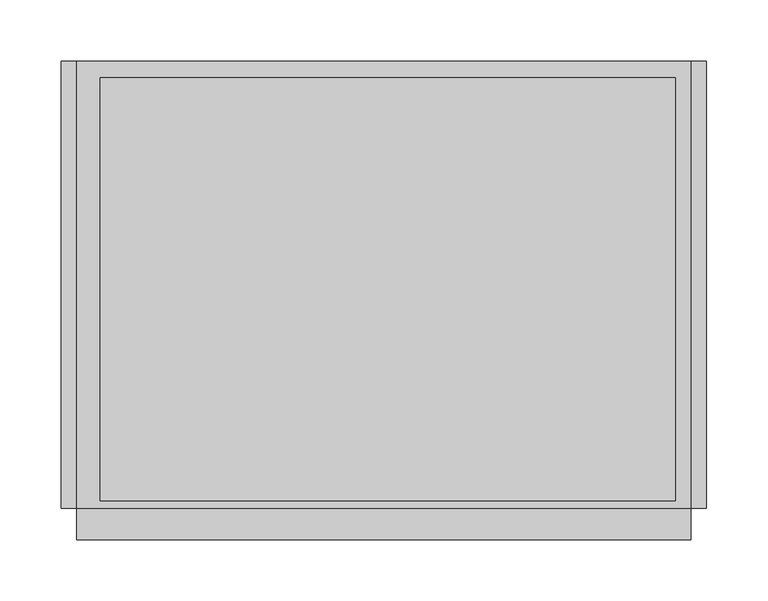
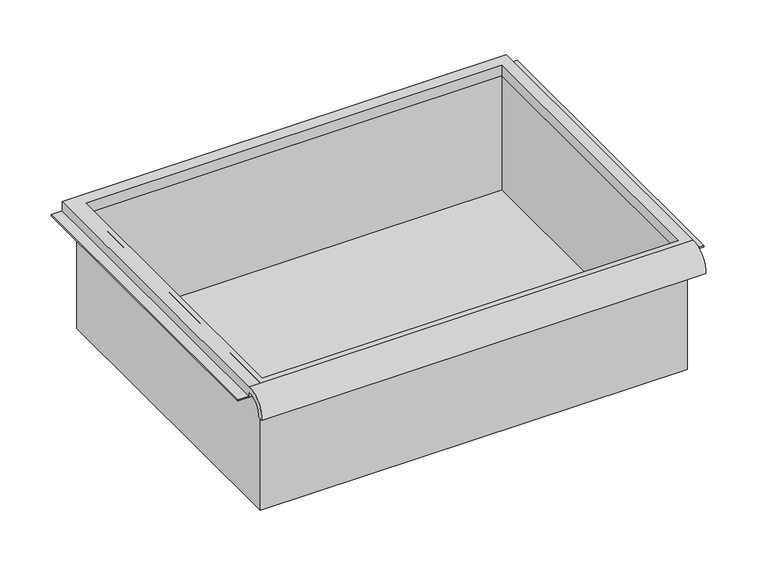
"""IFC4 building model written with IfcOpenShell, lengths in millimetres: furniture geometry."""

import ifcopenshell
import ifcopenshell.guid

model = None  # the IFC model being written
_history = None  # IfcOwnerHistory: only IFC2X3 demands one
_inside = {}  # id of a spatial element -> (the spatial element, [elements in it])
_under = {}  # id of a project, library or spatial element -> (it, [spatial elements below it])
_declared = {}  # id of a project -> (the project, [libraries it declares])
_typed = {}  # id of a type object -> (the type object, [elements of that type])
_made_of = {}  # id of a material, layer set ... -> (it, [elements and type objects made of it])


def new_model(schema):
    """Start an empty IFC model of exactly this schema.

    Asked for "IFC4X3", IfcOpenShell would pick the latest addendum, in which some entities
    have other attributes; the version numbers below select the first issue.
    IFC2X3 requires an IfcOwnerHistory on every rooted entity: one is made here for all.
    """
    global model, _history
    if schema == "IFC4X3":
        model = ifcopenshell.file(schema_version=(4, 3, 0, 0))
    else:
        model = ifcopenshell.file(schema=schema)
    _inside.clear()
    _under.clear()
    _declared.clear()
    _typed.clear()
    _made_of.clear()
    _history = None
    if model.schema == "IFC2X3":
        org = make("IfcOrganization", Name="unknown")
        user = make(
            "IfcPersonAndOrganization",
            ThePerson=make("IfcPerson", FamilyName="unknown"),
            TheOrganization=org,
        )
        app = make(
            "IfcApplication",
            ApplicationDeveloper=org,
            Version="unknown",
            ApplicationFullName="unknown",
            ApplicationIdentifier="unknown",
        )
        _history = make(
            "IfcOwnerHistory",
            OwningUser=user,
            OwningApplication=app,
            ChangeAction="ADDED",
            CreationDate=0,
        )
    return model


def make(cls, **values):
    """One entity of the class cls with the attributes given. An attribute that is None is left unset."""
    return model.create_entity(
        cls, **{name: value for name, value in values.items() if value is not None}
    )


def rooted(cls, **values):
    """An entity with a GlobalId (a new one), such as an element, a storey or a relation."""
    return make(cls, GlobalId=ifcopenshell.guid.new(), OwnerHistory=_history, **values)


def si_unit(unit_type, name, prefix=None):
    """IfcSIUnit, for example si_unit("LENGTHUNIT", "METRE", prefix="MILLI")."""
    return make("IfcSIUnit", UnitType=unit_type, Prefix=prefix, Name=name)


def assignment(units):
    """IfcUnitAssignment: the units of a project."""
    return None if units is None else make("IfcUnitAssignment", Units=units)


def point(xyz):
    """IfcCartesianPoint."""
    return None if xyz is None else make("IfcCartesianPoint", Coordinates=xyz)


def direction(xyz):
    """IfcDirection."""
    return None if xyz is None else make("IfcDirection", DirectionRatios=xyz)


def frame(location, z_axis=None, x_axis=None):
    """IfcAxis2Placement3D, a coordinate frame: its origin and axes. An axis left out is left unset."""
    return make(
        "IfcAxis2Placement3D",
        Location=point(location),
        Axis=direction(z_axis),
        RefDirection=direction(x_axis),
    )


def origin():
    """The frame at (0, 0, 0) with its axes left unset."""
    return frame((0.0, 0.0, 0.0))


def place(relative_to, where):
    """IfcLocalPlacement: puts the frame where relative to a parent placement (None: the world)."""
    return make(
        "IfcLocalPlacement", PlacementRelTo=relative_to, RelativePlacement=where
    )


def context(
    kind, dimensions, precision=None, world=None, true_north=None, identifier=None
):
    """IfcGeometricRepresentationContext, for example the 3D "Model" context."""
    return make(
        "IfcGeometricRepresentationContext",
        ContextIdentifier=identifier,
        ContextType=kind,
        CoordinateSpaceDimension=dimensions,
        Precision=precision,
        WorldCoordinateSystem=world,
        TrueNorth=true_north,
    )


def project(units=None, contexts=None):
    """IfcProject with its units and contexts."""
    return rooted(
        "IfcProject",
        Name="project",
        RepresentationContexts=contexts,
        UnitsInContext=assignment(units),
    )


def spatial(cls, under=None, at=None, **own):
    """A site, building, storey or space (cls), placed at a placement, below another one or the project."""
    s = rooted(cls, ObjectPlacement=at, **own)
    if under is not None:
        _under.setdefault(under.id(), (under, []))[1].append(s)
    return s


def polyline(points):
    """IfcPolyline through the points."""
    return make("IfcPolyline", Points=[point(p) for p in points])


def circle_curve(where, radius):
    """IfcCircle in the frame where."""
    return make("IfcCircle", Position=where, Radius=radius)


def faces_of(points, faces, orient=None, outer=None):
    """IfcFace entities. A face is a list of loops; a loop is a list of indices into points, from 0.

    orient and outer hold one flag for each loop. By default every Orientation is true, the
    first loop of a face is its IfcFaceOuterBound and the others are IfcFaceBound.
    """
    made = []
    for i, loops in enumerate(faces):
        bounds = []
        for j, loop in enumerate(loops):
            is_outer = j == 0 if outer is None else outer[i][j]
            bounds.append(
                make(
                    "IfcFaceOuterBound" if is_outer else "IfcFaceBound",
                    Bound=make("IfcPolyLoop", Polygon=[points[k] for k in loop]),
                    Orientation=True if orient is None else orient[i][j],
                )
            )
        made.append(make("IfcFace", Bounds=bounds))
    return made


def faceted_brep(points, faces, orient=None, outer=None, voids=None):
    """IfcFacetedBrep: a solid bounded by flat faces; with voids (closed shells), ...WithVoids."""
    shared = [point(p) for p in points]
    hull = make("IfcClosedShell", CfsFaces=faces_of(shared, faces, orient, outer))
    if voids is None:
        return make("IfcFacetedBrep", Outer=hull)
    return make(
        "IfcFacetedBrepWithVoids",
        Outer=hull,
        Voids=[
            make(cls, CfsFaces=faces_of(shared, fs, o, b)) for cls, fs, o, b in voids
        ],
    )


def shape(context_of_items, identifier, shape_type, items):
    """IfcShapeRepresentation: the items that make up one representation, for example the "Body"."""
    return make(
        "IfcShapeRepresentation",
        ContextOfItems=context_of_items,
        RepresentationIdentifier=identifier,
        RepresentationType=shape_type,
        Items=items,
    )


def source(mapping_origin, context_of_items, identifier, shape_type, items):
    """IfcRepresentationMap: a shape defined once, which mapped items show again and again."""
    return make(
        "IfcRepresentationMap",
        MappingOrigin=mapping_origin,
        MappedRepresentation=shape(context_of_items, identifier, shape_type, items),
    )


def transform(
    local_origin,
    x_axis=None,
    y_axis=None,
    z_axis=None,
    scale=None,
    scale2=None,
    scale3=None,
    uniform=True,
):
    """IfcCartesianTransformationOperator3D, or its non-uniform kind. x_axis, y_axis, z_axis: its Axis1, 2, 3."""
    if uniform:
        return make(
            "IfcCartesianTransformationOperator3D",
            Axis1=direction(x_axis),
            Axis2=direction(y_axis),
            LocalOrigin=point(local_origin),
            Scale=scale,
            Axis3=direction(z_axis),
        )
    return make(
        "IfcCartesianTransformationOperator3DnonUniform",
        Axis1=direction(x_axis),
        Axis2=direction(y_axis),
        LocalOrigin=point(local_origin),
        Scale=scale,
        Axis3=direction(z_axis),
        Scale2=scale2,
        Scale3=scale3,
    )


def mapped(mapping_source, mapping_target):
    """IfcMappedItem: shows the shape of a source again, moved by a transform."""
    return make(
        "IfcMappedItem", MappingSource=mapping_source, MappingTarget=mapping_target
    )


def made_of(thing, what):
    """Note that an element or type object is made of a material, layer set ...; save() writes the relation."""
    if what is not None:
        _made_of.setdefault(what.id(), (what, []))[1].append(thing)
    return thing


def element(
    cls,
    number,
    at=None,
    inside=None,
    cuts=None,
    type_object=None,
    material=None,
    context=None,
    identifier="Body",
    shape_type=None,
    held_by="IfcProductDefinitionShape",
    body=None,
    shapes=None,
    **own,
):
    """One element of the class cls, such as IfcWall. Its Tag is "e" and its number.

    at: its placement. inside: the storey or other place that contains it. cuts: it is an
    opening in that element (IfcRelVoidsElement). A single representation is given by context,
    identifier, shape_type and body (its items); several are given by shapes. held_by: the class
    of the entity that holds the representations. save() writes the other relations.
    """
    e = rooted(cls, Tag="e%d" % number, ObjectPlacement=at, **own)
    if body is not None:
        shapes = [shape(context, identifier, shape_type, body)]
    if shapes is not None:
        e.Representation = make(held_by, Representations=shapes)
    if inside is not None:
        _inside.setdefault(inside.id(), (inside, []))[1].append(e)
    if cuts is not None:
        rooted(
            "IfcRelVoidsElement", RelatingBuildingElement=cuts, RelatedOpeningElement=e
        )
    if type_object is not None:
        _typed.setdefault(type_object.id(), (type_object, []))[1].append(e)
    return made_of(e, material)


def aggregate(whole, parts):
    """IfcRelAggregates: a whole, such as a stair, and the parts it consists of."""
    return rooted("IfcRelAggregates", RelatingObject=whole, RelatedObjects=parts)


def save(model, path):
    """Write the relations noted so far, then the file.

    IfcRelAggregates (storeys below a building ...), IfcRelContainedInSpatialStructure (elements
    in a storey), IfcRelDefinesByType, IfcRelAssociatesMaterial and IfcRelDeclares: one each for
    every whole, place, type object, material and project.
    """
    for whole, parts in _under.values():
        aggregate(whole, parts)
    for where, things in _inside.values():
        rooted(
            "IfcRelContainedInSpatialStructure",
            RelatedElements=things,
            RelatingStructure=where,
        )
    for kind, things in _typed.values():
        rooted("IfcRelDefinesByType", RelatedObjects=things, RelatingType=kind)
    for what, things in _made_of.values():
        rooted("IfcRelAssociatesMaterial", RelatedObjects=things, RelatingMaterial=what)
    for by, libraries in _declared.values():
        rooted("IfcRelDeclares", RelatingContext=by, RelatedDefinitions=libraries)
    model.write(path)


def plane_surface(at):
    """IfcPlane: the flat surface through the origin of the frame at, square to its z axis."""
    return make("IfcPlane", Position=at)


def cylinder_surface(at, radius):
    """IfcCylindricalSurface: all points at the distance radius from the z axis of the frame at."""
    return make("IfcCylindricalSurface", Position=at, Radius=radius)


def revolved_surface(curve, axis_point, axis_direction):
    """IfcSurfaceOfRevolution: the curve turned about the line through axis_point along axis_direction."""
    return make(
        "IfcSurfaceOfRevolution",
        SweptCurve=make("IfcArbitraryOpenProfileDef", ProfileType="CURVE", Curve=curve),
        AxisPosition=make("IfcAxis1Placement", Location=point(axis_point), Axis=direction(axis_direction)),
    )


def advanced_brep(points, edges, surfaces, faces):
    """IfcAdvancedBrep: a solid bounded by faces that lie on surfaces and meet in shared edges.

    An edge is (start, end): straight between two places in points (the first is 0);
    or (start, end, curve); or (start, end, curve, False) where it runs against its curve.
    A face is (place in surfaces, loops), or (place, loops, False) where it looks against
    its surface's normal. A loop lists edges by number (the first is 1), with a minus sign
    where the edge is run from its end to its start. The first loop is the outer one.
    """
    corners = [point(p) for p in points]
    vertices = [make("IfcVertexPoint", VertexGeometry=c) for c in corners]
    made = []
    for start, end, *more in edges:
        made.append(
            make(
                "IfcEdgeCurve",
                EdgeStart=vertices[start],
                EdgeEnd=vertices[end],
                EdgeGeometry=more[0] if more else make("IfcPolyline", Points=[corners[start], corners[end]]),
                SameSense=more[1] if len(more) > 1 else True,
            )
        )
    hull = []
    for where, loops, *sense in faces:
        bounds = []
        for j, loop in enumerate(loops):
            ring = [make("IfcOrientedEdge", EdgeElement=made[abs(k) - 1], Orientation=k > 0) for k in loop]
            bounds.append(
                make(
                    "IfcFaceOuterBound" if j == 0 else "IfcFaceBound",
                    Bound=make("IfcEdgeLoop", EdgeList=ring),
                    Orientation=True,
                )
            )
        hull.append(make("IfcAdvancedFace", Bounds=bounds, FaceSurface=surfaces[where], SameSense=sense[0] if sense else True))
    return make("IfcAdvancedBrep", Outer=make("IfcClosedShell", CfsFaces=hull))


def furniture_382fb228(model_context):
    return source(origin(), model_context, "Body", "SolidModel", [
        advanced_brep(
        [(263.7474999, -195.297482, 662.7824118), (263.7474999, -188.9125, 662.7824118), (263.7474999, -169.8625, 681.043885), (263.7474999, -169.8625, 674.6938846), (263.7474999, 195.2625, 674.6938846), (263.7474999, 195.2625, 687.393885), (263.7474999, -169.8625, 687.393885), (-237.9025001, -195.297482, 662.7824118), (-237.9025001, -169.8625, 687.393885), (-237.9025001, 195.2625, 687.393885), (-237.9025001, 195.2625, 674.6938846), (-237.9025001, -169.8625, 674.6938846), (-237.9025001, -169.8625, 681.043885), (-237.9025001, -188.9125, 662.7824118), (251.0474878, 181.9275, 674.6938846), (-218.8095642, 181.9275, 674.6938846), (-218.8095642, -163.5125, 674.6938846), (251.0474878, -163.5125, 674.6938846), (-218.8095642, 181.9275, 687.393885), (251.0474878, 181.9275, 687.393885), (251.0474878, -163.5125, 687.393885), (-218.8095642, -163.5125, 687.393885)],
        [
            (0, 1),
            (1, 2, circle_curve(frame((263.7474999, -172.3404634, 664.5618222), z_axis=(-1.0, 0.0, 0.0), x_axis=(0.0, 1.0, 0.0)), 16.6672942)),
            (2, 3),
            (3, 4),
            (4, 5),
            (5, 6),
            (6, 0, circle_curve(frame((263.7474999, -172.4601678, 664.6297122), z_axis=(1.0, 0.0, 0.0), x_axis=(0.0, 1.0, 0.0)), 22.9119061)),
            (7, 8, circle_curve(frame((-237.9025001, -172.4601678, 664.6297122), z_axis=(-1.0, 0.0, 0.0), x_axis=(0.0, 1.0, 0.0)), 22.9119061)),
            (8, 9),
            (9, 10),
            (10, 11),
            (11, 12),
            (12, 13, circle_curve(frame((-237.9025001, -172.3404634, 664.5618222), z_axis=(1.0, 0.0, 0.0), x_axis=(0.0, 1.0, 0.0)), 16.6672942)),
            (13, 7),
            (0, 7),
            (13, 1),
            (12, 2),
            (11, 3),
            (10, 4),
            (14, 15),
            (15, 16),
            (16, 17),
            (17, 14),
            (9, 5),
            (8, 6),
            (18, 19),
            (19, 20),
            (20, 21),
            (21, 18),
            (14, 19),
            (18, 15),
            (21, 16),
            (20, 17),
        ],
        [
            plane_surface(frame((263.7474999, -195.297482, 662.7824118), z_axis=(1.0, 0.0, 0.0), x_axis=(0.0, 1.0, 0.0))),
            plane_surface(frame((-237.9025001, -195.297482, 662.7824118), z_axis=(-1.0, 0.0, 0.0), x_axis=(0.0, -1.0, 0.0))),
            plane_surface(frame((263.7474999, -195.297482, 662.7824118), z_axis=(0.0, 0.0, -1.0), x_axis=(-1.0, 0.0, 0.0))),
            revolved_surface(polyline([(-237.9025001, -155.67316920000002, 664.5618222), (263.7474999, -155.67316920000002, 664.5618222)]), (-237.9025001, -172.3404634, 664.5618222), (-1.0, 0.0, 0.0)),
            plane_surface(frame((263.7474999, -169.8625, 681.043885), z_axis=(0.0, -1.0, 0.0), x_axis=(-1.0, 0.0, 0.0))),
            plane_surface(frame((263.7474999, -169.8625, 674.6938846), z_axis=(0.0, 0.0, -1.0), x_axis=(-1.0, 0.0, 0.0))),
            plane_surface(frame((263.7474999, 195.2625, 674.6938846), z_axis=(0.0, 1.0, 0.0), x_axis=(-1.0, 0.0, 0.0))),
            plane_surface(frame((263.7474999, 195.2625, 687.393885), z_axis=(0.0, 0.0, 1.0), x_axis=(-1.0, 0.0, 0.0))),
            cylinder_surface(frame((-237.9025001, -172.4601678, 664.6297122), z_axis=(1.0, 0.0, 0.0), x_axis=(0.0, 1.0, 0.0)), 22.9119061),
            plane_surface(frame((251.0474878, 181.9275, 687.393885), z_axis=(0.0, -1.0, 0.0), x_axis=(0.0, 0.0, -1.0))),
            plane_surface(frame((-218.8095642, 181.9275, 687.393885), z_axis=(1.0, 0.0, 0.0), x_axis=(0.0, 0.0, -1.0))),
            plane_surface(frame((-218.8095642, -163.5125, 687.393885), z_axis=(0.0, 1.0, 0.0), x_axis=(0.0, 0.0, -1.0))),
            plane_surface(frame((251.0474878, -163.5125, 687.393885), z_axis=(-1.0, 0.0, 0.0), x_axis=(0.0, 0.0, -1.0))),
        ],
        [
            (0, [[1, 2, 3, 4, 5, 6, 7]]),
            (1, [[8, 9, 10, 11, 12, 13, 14]]),
            (2, [[-1, 15, -14, 16]]),
            (3, [[-2, -16, -13, 17]]),
            (4, [[-3, -17, -12, 18]]),
            (5, [[-4, -18, -11, 19], [20, 21, 22, 23]]),
            (6, [[-5, -19, -10, 24]]),
            (7, [[-6, -24, -9, 25], [26, 27, 28, 29]]),
            (8, [[-7, -25, -8, -15]]),
            (9, [[30, -26, 31, -20]]),
            (10, [[-31, -29, 32, -21]]),
            (11, [[-32, -28, 33, -22]]),
            (12, [[-30, -23, -33, -27]]),
        ],
    ),
        faceted_brep([(-225.2025001, -169.8625, 534.993885), (257.3974878, -169.8625, 534.993885), (257.3974878, -169.8625, 687.393885), (-225.2025001, -169.8625, 687.393885), (-225.2025001, 188.9125, 534.993885), (-225.2025001, 188.9125, 687.393885), (257.3974878, 188.9125, 687.393885), (257.3974878, 188.9125, 534.993885), (-218.8095642, 181.9275, 687.393885), (251.0474878, 181.9275, 687.393885), (251.0474878, -163.5125, 687.393885), (-218.8095642, -163.5125, 687.393885), (251.0474878, 181.9275, 538.168885), (-218.8095642, 181.9275, 538.168885), (-218.8095642, -163.5125, 538.168885), (251.0474878, -163.5125, 538.168885)], [[[0, 1, 2, 3]], [[4, 5, 6, 7]], [[1, 0, 4, 7]], [[2, 1, 7, 6]], [[3, 2, 6, 5], [8, 9, 10, 11]], [[0, 3, 5, 4]], [[12, 13, 14, 15]], [[13, 12, 9, 8]], [[14, 13, 8, 11]], [[15, 14, 11, 10]], [[12, 15, 10, 9]]]),
        faceted_brep([(-250.6025001, 195.2625, 674.6938846), (-250.6025001, 195.2625, 676.2813846), (-231.5525001, 195.2625, 676.2813846), (-231.5525001, 195.2625, 674.6938846), (-250.6025001, -169.8625, 674.6938846), (-231.5525001, -169.8625, 674.6938846), (-231.5525001, -169.8625, 676.2813846), (-250.6025001, -169.8625, 676.2813846)], [[[0, 1, 2, 3]], [[4, 5, 6, 7]], [[1, 0, 4, 7]], [[2, 1, 7, 6]], [[3, 2, 6, 5]], [[0, 3, 5, 4]]]),
        faceted_brep([(276.4474999, 195.2625, 674.6938846), (263.7474999, 195.2625, 674.6938846), (263.7474999, 195.2625, 676.2813846), (276.4474999, 195.2625, 676.2813846), (276.4474999, -169.8625, 674.6938846), (276.4474999, -169.8625, 676.2813846), (263.7474999, -169.8625, 676.2813846), (263.7474999, -169.8625, 674.6938846)], [[[0, 1, 2, 3]], [[4, 5, 6, 7]], [[1, 0, 4, 7]], [[2, 1, 7, 6]], [[3, 2, 6, 5]], [[0, 3, 5, 4]]]),
    ])


if __name__ == "__main__":
    model = new_model("IFC4")
    model_context = context("Model", 3, world=origin())
    ifc_project = project(units=[si_unit("LENGTHUNIT", "METRE", prefix="MILLI")], contexts=[model_context])
    site = spatial("IfcSite", under=ifc_project)
    building = spatial("IfcBuilding", under=site)
    placement = place(None, origin())
    furniture_shape = furniture_382fb228(model_context)
    element("IfcFurniture", 1, ObjectType="HermanMiller_Carts_CT501_Drawer : 6\"H x 15\"D x 20\"W", at=placement, inside=building, context=model_context, shape_type="MappedRepresentation", body=[
        mapped(furniture_shape, transform((0.0, 0.0, 0.0), x_axis=(1.0, 0.0, 0.0), y_axis=(0.0, 1.0, 0.0), z_axis=(0.0, 0.0, 1.0))),
    ])
    save(model, "model.ifc")
